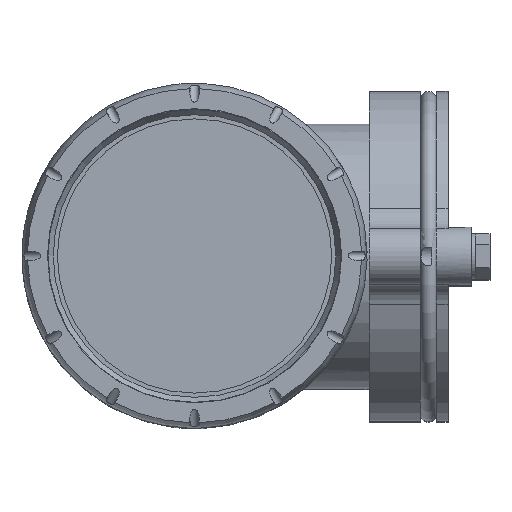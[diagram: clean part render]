
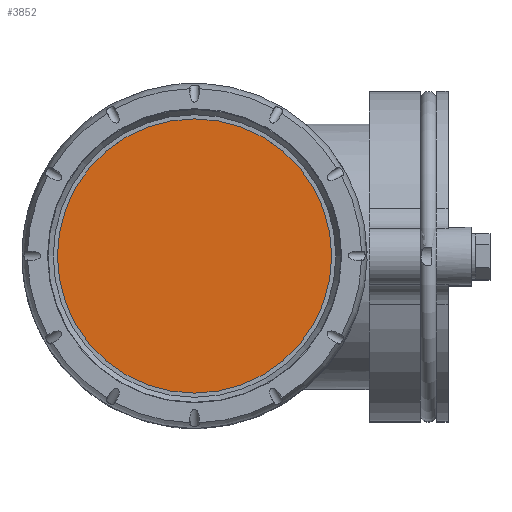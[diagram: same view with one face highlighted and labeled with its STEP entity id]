
A CAD part, top view. The second image highlights one B-rep face of the part: STEP entity #3852.
In plain terms, the highlighted planar face has unit normal (0, 0, 1).
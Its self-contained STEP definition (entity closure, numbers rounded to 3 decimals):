
#897=FACE_OUTER_BOUND('',#1126,.T.);
#1126=EDGE_LOOP('',(#2895));
#1384=CIRCLE('',#4156,62.5);
#1643=VERTEX_POINT('',#6031);
#2090=EDGE_CURVE('',#1643,#1643,#1384,.T.);
#2895=ORIENTED_EDGE('',*,*,#2090,.T.);
#3496=PLANE('',#4182);
#3852=ADVANCED_FACE('',(#897),#3496,.T.);
#4156=AXIS2_PLACEMENT_3D('',#6032,#4834,#4835);
#4182=AXIS2_PLACEMENT_3D('',#6080,#4899,#4900);
#4834=DIRECTION('center_axis',(0.,0.,1.));
#4835=DIRECTION('ref_axis',(1.,0.,0.));
#4899=DIRECTION('center_axis',(0.,0.,1.));
#4900=DIRECTION('ref_axis',(1.,0.,0.));
#6031=CARTESIAN_POINT('',(62.5,0.,205.));
#6032=CARTESIAN_POINT('Origin',(0.,0.,205.));
#6080=CARTESIAN_POINT('Origin',(0.,0.,205.));
